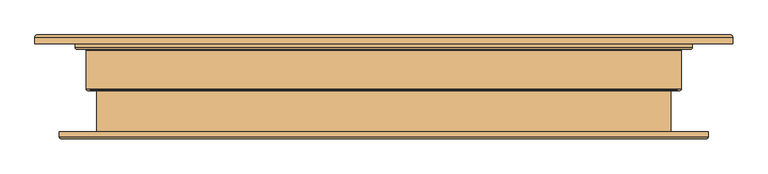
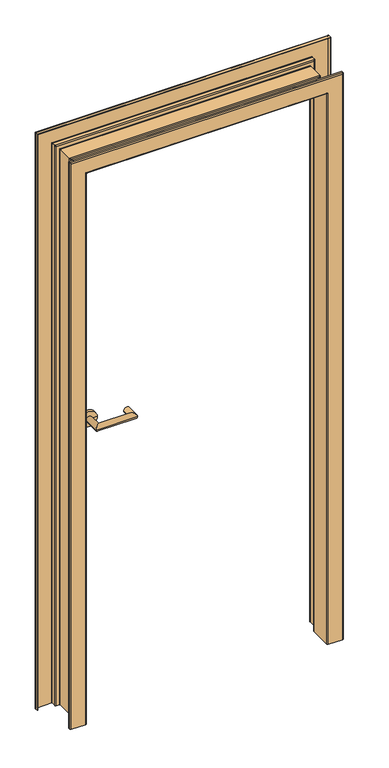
"""IFC4 building model written with IfcOpenShell, lengths in millimetres: door geometry, Peneder_HIGHLINEflat_1-flügelig_V2019 : Zargentyp - 01 - Eck 60 DN."""

from ifc_helpers import new_model, si_unit, frame, origin, place, context, project, spatial, polyline, circle_curve, ellipse_curve, source, transform, mapped, element, save
from ifc_brep_helpers import plane_surface, cylinder_surface, revolved_surface, advanced_brep


def door_bfabdab3(model_context):
    return source(origin(), model_context, "Body", "AdvancedBrep", [
        advanced_brep(
        [(-500.8, 138.0, 0.0), (-447.2, 138.0, 0.0), (-444.0, 134.8, 0.0), (-444.0, 120.2, 0.0), (-442.8, 119.0, 0.0), (-431.2, 119.0, 0.0), (-428.0, 115.8, 0.0), (-428.0, 60.5435371, 0.0), (-427.230303, 59.5704182, 0.0), (-421.4901646, 59.1837299, 0.0), (-418.7138764, 60.5145653, 0.0), (-418.4, 61.2839869, 0.0), (-418.4, 67.990098, 0.0), (-417.5333333, 70.1996732, 0.0), (-413.8666667, 70.1996732, 0.0), (-413.0, 67.990098, 0.0), (-413.0, -8.8, 0.0), (-416.2, -12.0, 0.0), (-465.8, -12.0, 0.0), (-469.0, -8.8, 0.0), (-469.0, -2.0, 0.0), (-467.0, -2.0, 0.0), (-467.0, -8.8, 0.0), (-465.8, -10.0, 0.0), (-416.2, -10.0, 0.0), (-415.0, -8.8, 0.0), (-415.0, 67.990098, 0.0), (-415.3333333, 68.8399346, 0.0), (-416.0666667, 68.8399346, 0.0), (-416.4, 67.990098, 0.0), (-416.4, 61.2435371, 0.0), (-417.2315687, 59.170398, 0.0), (-421.2947548, 57.1932991, 0.0), (-427.6909091, 57.6241802, 0.0), (-430.0, 60.5435371, 0.0), (-430.0, 115.8, 0.0), (-431.2, 117.0, 0.0), (-442.8, 117.0, 0.0), (-446.0, 120.2, 0.0), (-446.0, 134.8, 0.0), (-447.2, 136.0, 0.0), (-500.8, 136.0, 0.0), (-502.0, 134.8, 0.0), (-502.0, 125.0, 0.0), (-504.0, 125.0, 0.0), (-504.0, 134.8, 0.0), (-500.8, 138.0, 2087.8), (500.8, 138.0, 2087.8), (500.8, 138.0, 0.0), (447.2, 138.0, 0.0), (447.2, 138.0, 2034.2), (-447.2, 138.0, 2034.2), (-444.0, 134.8, 2031.0), (-444.0, 120.2, 2031.0), (-442.8, 119.0, 2029.8), (442.8, 119.0, 2029.8), (442.8, 119.0, 0.0), (431.2, 119.0, 0.0), (431.2, 119.0, 2018.2), (-431.2, 119.0, 2018.2), (-428.0, 115.8, 2015.0), (-428.0, 60.5435371, 2015.0), (-427.230303, 59.5704182, 2014.230303), (-421.4901646, 59.1837299, 2008.4901646), (-418.7138764, 60.5145653, 2005.7138764), (-418.4, 61.2839869, 2005.4), (-418.4, 67.990098, 2005.4), (-417.5333333, 70.1996732, 2004.5333333), (-413.8666667, 70.1996732, 2000.8666667), (-413.0, 67.990098, 2000.0), (-413.0, -8.8, 2000.0), (-416.2, -12.0, 2003.2), (416.2, -12.0, 2003.2), (416.2, -12.0, 0.0), (465.8, -12.0, 0.0), (465.8, -12.0, 2052.8), (-465.8, -12.0, 2052.8), (-469.0, -8.8, 2056.0), (-469.0, -2.0, 2056.0), (469.0, -2.0, 2056.0), (469.0, -2.0, 0.0), (467.0, -2.0, 0.0), (467.0, -2.0, 2054.0), (-467.0, -2.0, 2054.0), (-467.0, -8.8, 2054.0), (-465.8, -10.0, 2052.8), (465.8, -10.0, 2052.8), (465.8, -10.0, 0.0), (416.2, -10.0, 0.0), (416.2, -10.0, 2003.2), (-416.2, -10.0, 2003.2), (-415.0, -8.8, 2002.0), (-415.0, 67.990098, 2002.0), (-415.3333333, 68.8399346, 2002.3333333), (-416.0666667, 68.8399346, 2003.0666667), (-416.4, 67.990098, 2003.4), (-416.4, 61.2435371, 2003.4), (-417.2315687, 59.170398, 2004.2315687), (-421.2947548, 57.1932991, 2008.2947548), (-427.6909091, 57.6241802, 2014.6909091), (-430.0, 60.5435371, 2017.0), (-430.0, 115.8, 2017.0), (-431.2, 117.0, 2018.2), (431.2, 117.0, 2018.2), (431.2, 117.0, 0.0), (442.8, 117.0, 0.0), (442.8, 117.0, 2029.8), (-442.8, 117.0, 2029.8), (-446.0, 120.2, 2033.0), (-446.0, 134.8, 2033.0), (-447.2, 136.0, 2034.2), (447.2, 136.0, 2034.2), (447.2, 136.0, 0.0), (500.8, 136.0, 0.0), (500.8, 136.0, 2087.8), (-500.8, 136.0, 2087.8), (-502.0, 134.8, 2089.0), (-502.0, 125.0, 2089.0), (502.0, 125.0, 2089.0), (502.0, 125.0, 0.0), (504.0, 125.0, 0.0), (504.0, 125.0, 2091.0), (-504.0, 125.0, 2091.0), (-504.0, 134.8, 2091.0), (502.0, 134.8, 2089.0), (502.0, 134.8, 0.0), (504.0, 134.8, 0.0), (446.0, 134.8, 0.0), (446.0, 120.2, 0.0), (430.0, 115.8, 0.0), (430.0, 60.5435371, 0.0), (427.6909091, 57.6241802, 0.0), (421.2947548, 57.1932991, 0.0), (417.2315687, 59.170398, 0.0), (416.4, 61.2435371, 0.0), (416.4, 67.990098, 0.0), (416.0666667, 68.8399346, 0.0), (415.3333333, 68.8399346, 0.0), (415.0, 67.990098, 0.0), (415.0, -8.8, 0.0), (467.0, -8.8, 0.0), (469.0, -8.8, 0.0), (413.0, -8.8, 0.0), (413.0, 67.990098, 0.0), (413.8666667, 70.1996732, 0.0), (417.5333333, 70.1996732, 0.0), (418.4, 67.990098, 0.0), (418.4, 61.2839869, 0.0), (418.7138764, 60.5145653, 0.0), (421.4901646, 59.1837299, 0.0), (427.230303, 59.5704182, 0.0), (428.0, 60.5435371, 0.0), (428.0, 115.8, 0.0), (444.0, 120.2, 0.0), (444.0, 134.8, 0.0), (504.0, 134.8, 2091.0), (446.0, 134.8, 2033.0), (430.0, 115.8, 2017.0), (446.0, 120.2, 2033.0), (467.0, -8.8, 2054.0), (415.0, -8.8, 2002.0), (469.0, -8.8, 2056.0), (413.0, -8.8, 2000.0), (444.0, 120.2, 2031.0), (428.0, 115.8, 2015.0), (444.0, 134.8, 2031.0), (430.0, 60.5435371, 2017.0), (427.6909091, 57.6241802, 2014.6909091), (421.2947548, 57.1932991, 2008.2947548), (417.2315687, 59.170398, 2004.2315687), (416.4, 61.2435371, 2003.4), (416.4, 67.990098, 2003.4), (416.0666667, 68.8399346, 2003.0666667), (415.3333333, 68.8399346, 2002.3333333), (415.0, 67.990098, 2002.0), (413.0, 67.990098, 2000.0), (413.8666667, 70.1996732, 2000.8666667), (417.5333333, 70.1996732, 2004.5333333), (418.4, 67.990098, 2005.4), (418.4, 61.2839869, 2005.4), (418.7138764, 60.5145653, 2005.7138764), (421.4901646, 59.1837299, 2008.4901646), (427.230303, 59.5704182, 2014.230303), (428.0, 60.5435371, 2015.0)],
        [
            (0, 1),
            (1, 2, circle_curve(frame((-447.2, 134.8, 0.0), z_axis=(0.0, 0.0, -1.0), x_axis=(1.0, 0.0, 0.0)), 3.2)),
            (2, 3),
            (3, 4, circle_curve(frame((-442.8, 120.2, 0.0), z_axis=(0.0, 0.0, 1.0), x_axis=(1.0, 0.0, 0.0)), 1.2)),
            (4, 5),
            (5, 6, circle_curve(frame((-431.2, 115.8, 0.0), z_axis=(0.0, 0.0, -1.0), x_axis=(1.0, 0.0, 0.0)), 3.2)),
            (6, 7),
            (7, 8, circle_curve(frame((-427.0, 60.5435371, 0.0), z_axis=(0.0, 0.0, 1.0), x_axis=(1.0, 0.0, 0.0)), 1.0)),
            (8, 9, circle_curve(frame((-423.2, 76.6, 0.0), z_axis=(0.0, 0.0, 1.0), x_axis=(-1.0, 0.0, 0.0)), 17.5)),
            (9, 10, circle_curve(frame((-421.9298365, 63.6621994, 0.0), z_axis=(0.0, 0.0, 1.0), x_axis=(-1.0, 0.0, 0.0)), 4.5)),
            (10, 11, circle_curve(frame((-419.5, 61.2839869, 0.0), z_axis=(0.0, 0.0, 1.0), x_axis=(-1.0, 0.0, 0.0)), 1.1)),
            (11, 12),
            (12, 13, circle_curve(frame((-415.15, 67.990098, 0.0), z_axis=(0.0, 0.0, -1.0), x_axis=(1.0, 0.0, 0.0)), 3.25)),
            (13, 14, circle_curve(frame((-415.7, 68.5, 0.0), z_axis=(0.0, 0.0, -1.0), x_axis=(1.0, 0.0, 0.0)), 2.5)),
            (14, 15, circle_curve(frame((-416.25, 67.990098, 0.0), z_axis=(0.0, 0.0, -1.0), x_axis=(1.0, 0.0, 0.0)), 3.25)),
            (15, 16),
            (16, 17, circle_curve(frame((-416.2, -8.8, 0.0), z_axis=(0.0, 0.0, -1.0), x_axis=(1.0, 0.0, 0.0)), 3.2)),
            (17, 18),
            (18, 19, circle_curve(frame((-465.8, -8.8, 0.0), z_axis=(0.0, 0.0, -1.0), x_axis=(1.0, 0.0, 0.0)), 3.2)),
            (19, 20),
            (20, 21),
            (21, 22),
            (22, 23, circle_curve(frame((-465.8, -8.8, 0.0), z_axis=(0.0, 0.0, 1.0), x_axis=(1.0, 0.0, 0.0)), 1.2)),
            (23, 24),
            (24, 25, circle_curve(frame((-416.2, -8.8, 0.0), z_axis=(0.0, 0.0, 1.0), x_axis=(1.0, 0.0, 0.0)), 1.2)),
            (25, 26),
            (26, 27, circle_curve(frame((-416.25, 67.990098, 0.0), z_axis=(0.0, 0.0, 1.0), x_axis=(1.0, 0.0, 0.0)), 1.25)),
            (27, 28, circle_curve(frame((-415.7, 68.5, 0.0), z_axis=(0.0, 0.0, 1.0), x_axis=(1.0, 0.0, 0.0)), 0.5)),
            (28, 29, circle_curve(frame((-415.15, 67.990098, 0.0), z_axis=(0.0, 0.0, 1.0), x_axis=(1.0, 0.0, 0.0)), 1.25)),
            (29, 30),
            (30, 31, circle_curve(frame((-419.4, 61.2435371, 0.0), z_axis=(0.0, 0.0, -1.0), x_axis=(1.0, 0.0, 0.0)), 3.0)),
            (31, 32, circle_curve(frame((-421.9298365, 63.6621994, 0.0), z_axis=(0.0, 0.0, -1.0), x_axis=(1.0, 0.0, 0.0)), 6.5)),
            (32, 33, circle_curve(frame((-423.2, 76.6, 0.0), z_axis=(0.0, 0.0, -1.0), x_axis=(1.0, 0.0, 0.0)), 19.5)),
            (33, 34, circle_curve(frame((-427.0, 60.5435371, 0.0), z_axis=(0.0, 0.0, -1.0), x_axis=(1.0, 0.0, 0.0)), 3.0)),
            (34, 35),
            (35, 36, circle_curve(frame((-431.2, 115.8, 0.0), z_axis=(0.0, 0.0, 1.0), x_axis=(1.0, 0.0, 0.0)), 1.2)),
            (36, 37),
            (37, 38, circle_curve(frame((-442.8, 120.2, 0.0), z_axis=(0.0, 0.0, -1.0), x_axis=(1.0, 0.0, 0.0)), 3.2)),
            (38, 39),
            (39, 40, circle_curve(frame((-447.2, 134.8, 0.0), z_axis=(0.0, 0.0, 1.0), x_axis=(1.0, 0.0, 0.0)), 1.2)),
            (40, 41),
            (41, 42, circle_curve(frame((-500.8, 134.8, 0.0), z_axis=(0.0, 0.0, 1.0), x_axis=(1.0, 0.0, 0.0)), 1.2)),
            (42, 43),
            (43, 44),
            (44, 45),
            (45, 0, circle_curve(frame((-500.8, 134.8, 0.0), z_axis=(0.0, 0.0, -1.0), x_axis=(1.0, 0.0, 0.0)), 3.2)),
            (0, 46),
            (46, 47),
            (47, 48),
            (48, 49),
            (49, 50),
            (50, 51),
            (51, 1),
            (51, 52, ellipse_curve(frame((-447.2, 134.8, 2034.2), z_axis=(-0.7071067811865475, 0.0, -0.7071067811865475), x_axis=(0.7071067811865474, 0.0, -0.7071067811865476)), 4.5254834, 3.2)),
            (52, 2),
            (52, 53),
            (53, 3),
            (53, 54, ellipse_curve(frame((-442.8, 120.2, 2029.8), z_axis=(0.7071067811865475, 0.0, 0.7071067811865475), x_axis=(-0.7071067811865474, 0.0, 0.7071067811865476)), 1.6970563, 1.2)),
            (54, 4),
            (54, 55),
            (55, 56),
            (56, 57),
            (57, 58),
            (58, 59),
            (59, 5),
            (59, 60, ellipse_curve(frame((-431.2, 115.8, 2018.2), z_axis=(-0.7071067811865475, 0.0, -0.7071067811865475), x_axis=(0.7071067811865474, 0.0, -0.7071067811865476)), 4.5254834, 3.2)),
            (60, 6),
            (60, 61),
            (61, 7),
            (61, 62, ellipse_curve(frame((-427.0, 60.5435371, 2014.0), z_axis=(0.7071067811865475, 0.0, 0.7071067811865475), x_axis=(-0.7071067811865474, 0.0, 0.7071067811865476)), 1.4142136, 1.0)),
            (62, 8),
            (62, 63, ellipse_curve(frame((-423.2, 76.6, 2010.2), z_axis=(0.7071067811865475, 0.0, 0.7071067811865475), x_axis=(-0.7071067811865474, 0.0, 0.7071067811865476)), 24.7487373, 17.5)),
            (63, 9),
            (63, 64, ellipse_curve(frame((-421.9298365, 63.6621994, 2008.9298365), z_axis=(0.7071067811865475, 0.0, 0.7071067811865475), x_axis=(-0.7071067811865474, 0.0, 0.7071067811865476)), 6.363961, 4.5)),
            (64, 10),
            (64, 65, ellipse_curve(frame((-419.5, 61.2839869, 2006.5), z_axis=(0.7071067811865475, 0.0, 0.7071067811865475), x_axis=(-0.7071067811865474, 0.0, 0.7071067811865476)), 1.5556349, 1.1)),
            (65, 11),
            (65, 66),
            (66, 12),
            (66, 67, ellipse_curve(frame((-415.15, 67.990098, 2002.15), z_axis=(-0.7071067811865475, 0.0, -0.7071067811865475), x_axis=(0.7071067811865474, 0.0, -0.7071067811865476)), 4.5961941, 3.25)),
            (67, 13),
            (67, 68, ellipse_curve(frame((-415.7, 68.5, 2002.7), z_axis=(-0.7071067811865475, 0.0, -0.7071067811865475), x_axis=(0.7071067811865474, 0.0, -0.7071067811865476)), 3.5355339, 2.5)),
            (68, 14),
            (68, 69, ellipse_curve(frame((-416.25, 67.990098, 2003.25), z_axis=(-0.7071067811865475, 0.0, -0.7071067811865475), x_axis=(0.7071067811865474, 0.0, -0.7071067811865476)), 4.5961941, 3.25)),
            (69, 15),
            (69, 70),
            (70, 16),
            (70, 71, ellipse_curve(frame((-416.2, -8.8, 2003.2), z_axis=(-0.7071067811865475, 0.0, -0.7071067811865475), x_axis=(0.7071067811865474, 0.0, -0.7071067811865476)), 4.5254834, 3.2)),
            (71, 17),
            (71, 72),
            (72, 73),
            (73, 74),
            (74, 75),
            (75, 76),
            (76, 18),
            (76, 77, ellipse_curve(frame((-465.8, -8.8, 2052.8), z_axis=(-0.7071067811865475, 0.0, -0.7071067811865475), x_axis=(0.7071067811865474, 0.0, -0.7071067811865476)), 4.5254834, 3.2)),
            (77, 19),
            (77, 78),
            (78, 20),
            (78, 79),
            (79, 80),
            (80, 81),
            (81, 82),
            (82, 83),
            (83, 21),
            (83, 84),
            (84, 22),
            (84, 85, ellipse_curve(frame((-465.8, -8.8, 2052.8), z_axis=(0.7071067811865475, 0.0, 0.7071067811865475), x_axis=(-0.7071067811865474, 0.0, 0.7071067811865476)), 1.6970563, 1.2)),
            (85, 23),
            (85, 86),
            (86, 87),
            (87, 88),
            (88, 89),
            (89, 90),
            (90, 24),
            (90, 91, ellipse_curve(frame((-416.2, -8.8, 2003.2), z_axis=(0.7071067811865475, 0.0, 0.7071067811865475), x_axis=(-0.7071067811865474, 0.0, 0.7071067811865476)), 1.6970563, 1.2)),
            (91, 25),
            (91, 92),
            (92, 26),
            (92, 93, ellipse_curve(frame((-416.25, 67.990098, 2003.25), z_axis=(0.7071067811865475, 0.0, 0.7071067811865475), x_axis=(-0.7071067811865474, 0.0, 0.7071067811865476)), 1.767767, 1.25)),
            (93, 27),
            (93, 94, ellipse_curve(frame((-415.7, 68.5, 2002.7), z_axis=(0.7071067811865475, 0.0, 0.7071067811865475), x_axis=(-0.7071067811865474, 0.0, 0.7071067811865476)), 0.7071068, 0.5)),
            (94, 28),
            (94, 95, ellipse_curve(frame((-415.15, 67.990098, 2002.15), z_axis=(0.7071067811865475, 0.0, 0.7071067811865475), x_axis=(-0.7071067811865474, 0.0, 0.7071067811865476)), 1.767767, 1.25)),
            (95, 29),
            (95, 96),
            (96, 30),
            (96, 97, ellipse_curve(frame((-419.4, 61.2435371, 2006.4), z_axis=(-0.7071067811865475, 0.0, -0.7071067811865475), x_axis=(0.7071067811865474, 0.0, -0.7071067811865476)), 4.2426407, 3.0)),
            (97, 31),
            (97, 98, ellipse_curve(frame((-421.9298365, 63.6621994, 2008.9298365), z_axis=(-0.7071067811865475, 0.0, -0.7071067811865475), x_axis=(0.7071067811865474, 0.0, -0.7071067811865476)), 9.1923882, 6.5)),
            (98, 32),
            (98, 99, ellipse_curve(frame((-423.2, 76.6, 2010.2), z_axis=(-0.7071067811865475, 0.0, -0.7071067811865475), x_axis=(0.7071067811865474, 0.0, -0.7071067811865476)), 27.5771645, 19.5)),
            (99, 33),
            (99, 100, ellipse_curve(frame((-427.0, 60.5435371, 2014.0), z_axis=(-0.7071067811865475, 0.0, -0.7071067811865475), x_axis=(0.7071067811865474, 0.0, -0.7071067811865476)), 4.2426407, 3.0)),
            (100, 34),
            (100, 101),
            (101, 35),
            (101, 102, ellipse_curve(frame((-431.2, 115.8, 2018.2), z_axis=(0.7071067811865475, 0.0, 0.7071067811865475), x_axis=(-0.7071067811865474, 0.0, 0.7071067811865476)), 1.6970563, 1.2)),
            (102, 36),
            (102, 103),
            (103, 104),
            (104, 105),
            (105, 106),
            (106, 107),
            (107, 37),
            (107, 108, ellipse_curve(frame((-442.8, 120.2, 2029.8), z_axis=(-0.7071067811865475, 0.0, -0.7071067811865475), x_axis=(0.7071067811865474, 0.0, -0.7071067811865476)), 4.5254834, 3.2)),
            (108, 38),
            (108, 109),
            (109, 39),
            (109, 110, ellipse_curve(frame((-447.2, 134.8, 2034.2), z_axis=(0.7071067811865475, 0.0, 0.7071067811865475), x_axis=(-0.7071067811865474, 0.0, 0.7071067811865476)), 1.6970563, 1.2)),
            (110, 40),
            (110, 111),
            (111, 112),
            (112, 113),
            (113, 114),
            (114, 115),
            (115, 41),
            (115, 116, ellipse_curve(frame((-500.8, 134.8, 2087.8), z_axis=(0.7071067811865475, 0.0, 0.7071067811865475), x_axis=(-0.7071067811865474, 0.0, 0.7071067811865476)), 1.6970563, 1.2)),
            (116, 42),
            (116, 117),
            (117, 43),
            (117, 118),
            (118, 119),
            (119, 120),
            (120, 121),
            (121, 122),
            (122, 44),
            (122, 123),
            (123, 45),
            (123, 46, ellipse_curve(frame((-500.8, 134.8, 2087.8), z_axis=(-0.7071067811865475, 0.0, -0.7071067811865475), x_axis=(0.7071067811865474, 0.0, -0.7071067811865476)), 4.5254834, 3.2)),
            (118, 124),
            (124, 125),
            (125, 119),
            (48, 126, circle_curve(frame((500.8, 134.8, 0.0), z_axis=(0.0, 0.0, -1.0), x_axis=(-1.0, 0.0, 0.0)), 3.2)),
            (126, 120),
            (125, 113, circle_curve(frame((500.8, 134.8, 0.0), z_axis=(0.0, 0.0, 1.0), x_axis=(-1.0, 0.0, 0.0)), 1.2)),
            (112, 127, circle_curve(frame((447.2, 134.8, 0.0), z_axis=(0.0, 0.0, 1.0), x_axis=(-1.0, 0.0, 0.0)), 1.2)),
            (127, 128),
            (128, 105, circle_curve(frame((442.8, 120.2, 0.0), z_axis=(0.0, 0.0, -1.0), x_axis=(-1.0, 0.0, 0.0)), 3.2)),
            (104, 129, circle_curve(frame((431.2, 115.8, 0.0), z_axis=(0.0, 0.0, 1.0), x_axis=(-1.0, 0.0, 0.0)), 1.2)),
            (129, 130),
            (130, 131, circle_curve(frame((427.0, 60.5435371, 0.0), z_axis=(0.0, 0.0, -1.0), x_axis=(-1.0, 0.0, 0.0)), 3.0)),
            (131, 132, circle_curve(frame((423.2, 76.6, 0.0), z_axis=(0.0, 0.0, -1.0), x_axis=(-1.0, 0.0, 0.0)), 19.5)),
            (132, 133, circle_curve(frame((421.9298365, 63.6621994, 0.0), z_axis=(0.0, 0.0, -1.0), x_axis=(-1.0, 0.0, 0.0)), 6.5)),
            (133, 134, circle_curve(frame((419.4, 61.2435371, 0.0), z_axis=(0.0, 0.0, -1.0), x_axis=(-1.0, 0.0, 0.0)), 3.0)),
            (134, 135),
            (135, 136, circle_curve(frame((415.15, 67.990098, 0.0), z_axis=(0.0, 0.0, 1.0), x_axis=(-1.0, 0.0, 0.0)), 1.25)),
            (136, 137, circle_curve(frame((415.7, 68.5, 0.0), z_axis=(0.0, 0.0, 1.0), x_axis=(-1.0, 0.0, 0.0)), 0.5)),
            (137, 138, circle_curve(frame((416.25, 67.990098, 0.0), z_axis=(0.0, 0.0, 1.0), x_axis=(-1.0, 0.0, 0.0)), 1.25)),
            (138, 139),
            (139, 88, circle_curve(frame((416.2, -8.8, 0.0), z_axis=(0.0, 0.0, 1.0), x_axis=(-1.0, 0.0, 0.0)), 1.2)),
            (87, 140, circle_curve(frame((465.8, -8.8, 0.0), z_axis=(0.0, 0.0, 1.0), x_axis=(-1.0, 0.0, 0.0)), 1.2)),
            (140, 81),
            (80, 141),
            (141, 74, circle_curve(frame((465.8, -8.8, 0.0), z_axis=(0.0, 0.0, -1.0), x_axis=(-1.0, 0.0, 0.0)), 3.2)),
            (73, 142, circle_curve(frame((416.2, -8.8, 0.0), z_axis=(0.0, 0.0, -1.0), x_axis=(-1.0, 0.0, 0.0)), 3.2)),
            (142, 143),
            (143, 144, circle_curve(frame((416.25, 67.990098, 0.0), z_axis=(0.0, 0.0, -1.0), x_axis=(-1.0, 0.0, 0.0)), 3.25)),
            (144, 145, circle_curve(frame((415.7, 68.5, 0.0), z_axis=(0.0, 0.0, -1.0), x_axis=(-1.0, 0.0, 0.0)), 2.5)),
            (145, 146, circle_curve(frame((415.15, 67.990098, 0.0), z_axis=(0.0, 0.0, -1.0), x_axis=(-1.0, 0.0, 0.0)), 3.25)),
            (146, 147),
            (147, 148, circle_curve(frame((419.5, 61.2839869, 0.0), z_axis=(0.0, 0.0, 1.0), x_axis=(1.0, 0.0, 0.0)), 1.1)),
            (148, 149, circle_curve(frame((421.9298365, 63.6621994, 0.0), z_axis=(0.0, 0.0, 1.0), x_axis=(1.0, 0.0, 0.0)), 4.5)),
            (149, 150, circle_curve(frame((423.2, 76.6, 0.0), z_axis=(0.0, 0.0, 1.0), x_axis=(1.0, 0.0, 0.0)), 17.5)),
            (150, 151, circle_curve(frame((427.0, 60.5435371, 0.0), z_axis=(0.0, 0.0, 1.0), x_axis=(-1.0, 0.0, 0.0)), 1.0)),
            (151, 152),
            (152, 57, circle_curve(frame((431.2, 115.8, 0.0), z_axis=(0.0, 0.0, -1.0), x_axis=(-1.0, 0.0, 0.0)), 3.2)),
            (56, 153, circle_curve(frame((442.8, 120.2, 0.0), z_axis=(0.0, 0.0, 1.0), x_axis=(-1.0, 0.0, 0.0)), 1.2)),
            (153, 154),
            (154, 49, circle_curve(frame((447.2, 134.8, 0.0), z_axis=(0.0, 0.0, -1.0), x_axis=(-1.0, 0.0, 0.0)), 3.2)),
            (155, 121),
            (126, 155),
            (111, 156, ellipse_curve(frame((447.2, 134.8, 2034.2), z_axis=(-0.7071067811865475, 0.0, 0.7071067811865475), x_axis=(-0.7071067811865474, 0.0, -0.7071067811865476)), 1.6970563, 1.2)),
            (156, 127),
            (124, 114, ellipse_curve(frame((500.8, 134.8, 2087.8), z_axis=(-0.7071067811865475, 0.0, 0.7071067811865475), x_axis=(-0.7071067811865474, 0.0, -0.7071067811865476)), 1.6970563, 1.2)),
            (103, 157, ellipse_curve(frame((431.2, 115.8, 2018.2), z_axis=(-0.7071067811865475, 0.0, 0.7071067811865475), x_axis=(-0.7071067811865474, 0.0, -0.7071067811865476)), 1.6970563, 1.2)),
            (157, 129),
            (158, 106, ellipse_curve(frame((442.8, 120.2, 2029.8), z_axis=(0.7071067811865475, 0.0, -0.7071067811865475), x_axis=(0.7071067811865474, 0.0, 0.7071067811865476)), 4.5254834, 3.2)),
            (128, 158),
            (86, 159, ellipse_curve(frame((465.8, -8.8, 2052.8), z_axis=(-0.7071067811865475, 0.0, 0.7071067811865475), x_axis=(-0.7071067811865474, 0.0, -0.7071067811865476)), 1.6970563, 1.2)),
            (159, 140),
            (160, 89, ellipse_curve(frame((416.2, -8.8, 2003.2), z_axis=(-0.7071067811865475, 0.0, 0.7071067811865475), x_axis=(-0.7071067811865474, 0.0, -0.7071067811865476)), 1.6970563, 1.2)),
            (139, 160),
            (79, 161),
            (161, 141),
            (159, 82),
            (72, 162, ellipse_curve(frame((416.2, -8.8, 2003.2), z_axis=(0.7071067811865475, 0.0, -0.7071067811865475), x_axis=(0.7071067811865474, 0.0, 0.7071067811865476)), 4.5254834, 3.2)),
            (162, 142),
            (161, 75, ellipse_curve(frame((465.8, -8.8, 2052.8), z_axis=(0.7071067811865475, 0.0, -0.7071067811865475), x_axis=(0.7071067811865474, 0.0, 0.7071067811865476)), 4.5254834, 3.2)),
            (55, 163, ellipse_curve(frame((442.8, 120.2, 2029.8), z_axis=(-0.7071067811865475, 0.0, 0.7071067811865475), x_axis=(-0.7071067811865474, 0.0, -0.7071067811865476)), 1.6970563, 1.2)),
            (163, 153),
            (164, 58, ellipse_curve(frame((431.2, 115.8, 2018.2), z_axis=(0.7071067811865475, 0.0, -0.7071067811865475), x_axis=(0.7071067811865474, 0.0, 0.7071067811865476)), 4.5254834, 3.2)),
            (152, 164),
            (47, 155, ellipse_curve(frame((500.8, 134.8, 2087.8), z_axis=(0.7071067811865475, 0.0, -0.7071067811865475), x_axis=(0.7071067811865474, 0.0, 0.7071067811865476)), 4.5254834, 3.2)),
            (165, 50, ellipse_curve(frame((447.2, 134.8, 2034.2), z_axis=(0.7071067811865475, 0.0, -0.7071067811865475), x_axis=(0.7071067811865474, 0.0, 0.7071067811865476)), 4.5254834, 3.2)),
            (154, 165),
            (156, 158),
            (157, 166),
            (166, 130),
            (166, 167, ellipse_curve(frame((427.0, 60.5435371, 2014.0), z_axis=(0.7071067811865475, 0.0, -0.7071067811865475), x_axis=(0.7071067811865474, 0.0, 0.7071067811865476)), 4.2426407, 3.0)),
            (167, 131),
            (167, 168, ellipse_curve(frame((423.2, 76.6, 2010.2), z_axis=(0.7071067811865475, 0.0, -0.7071067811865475), x_axis=(0.7071067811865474, 0.0, 0.7071067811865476)), 27.5771645, 19.5)),
            (168, 132),
            (168, 169, ellipse_curve(frame((421.9298365, 63.6621994, 2008.9298365), z_axis=(0.7071067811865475, 0.0, -0.7071067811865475), x_axis=(0.7071067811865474, 0.0, 0.7071067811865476)), 9.1923882, 6.5)),
            (169, 133),
            (169, 170, ellipse_curve(frame((419.4, 61.2435371, 2006.4), z_axis=(0.7071067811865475, 0.0, -0.7071067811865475), x_axis=(0.7071067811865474, 0.0, 0.7071067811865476)), 4.2426407, 3.0)),
            (170, 134),
            (170, 171),
            (171, 135),
            (171, 172, ellipse_curve(frame((415.15, 67.990098, 2002.15), z_axis=(-0.7071067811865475, 0.0, 0.7071067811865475), x_axis=(-0.7071067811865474, 0.0, -0.7071067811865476)), 1.767767, 1.25)),
            (172, 136),
            (172, 173, ellipse_curve(frame((415.7, 68.5, 2002.7), z_axis=(-0.7071067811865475, 0.0, 0.7071067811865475), x_axis=(-0.7071067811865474, 0.0, -0.7071067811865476)), 0.7071068, 0.5)),
            (173, 137),
            (173, 174, ellipse_curve(frame((416.25, 67.990098, 2003.25), z_axis=(-0.7071067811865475, 0.0, 0.7071067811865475), x_axis=(-0.7071067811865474, 0.0, -0.7071067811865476)), 1.767767, 1.25)),
            (174, 138),
            (174, 160),
            (162, 175),
            (175, 143),
            (175, 176, ellipse_curve(frame((416.25, 67.990098, 2003.25), z_axis=(0.7071067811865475, 0.0, -0.7071067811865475), x_axis=(0.7071067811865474, 0.0, 0.7071067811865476)), 4.5961941, 3.25)),
            (176, 144),
            (176, 177, ellipse_curve(frame((415.7, 68.5, 2002.7), z_axis=(0.7071067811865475, 0.0, -0.7071067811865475), x_axis=(0.7071067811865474, 0.0, 0.7071067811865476)), 3.5355339, 2.5)),
            (177, 145),
            (177, 178, ellipse_curve(frame((415.15, 67.990098, 2002.15), z_axis=(0.7071067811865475, 0.0, -0.7071067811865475), x_axis=(0.7071067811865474, 0.0, 0.7071067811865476)), 4.5961941, 3.25)),
            (178, 146),
            (178, 179),
            (179, 147),
            (179, 180, ellipse_curve(frame((419.5, 61.2839869, 2006.5), z_axis=(-0.7071067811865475, 0.0, 0.7071067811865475), x_axis=(-0.7071067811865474, 0.0, -0.7071067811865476)), 1.5556349, 1.1)),
            (180, 148),
            (180, 181, ellipse_curve(frame((421.9298365, 63.6621994, 2008.9298365), z_axis=(-0.7071067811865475, 0.0, 0.7071067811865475), x_axis=(-0.7071067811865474, 0.0, -0.7071067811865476)), 6.363961, 4.5)),
            (181, 149),
            (181, 182, ellipse_curve(frame((423.2, 76.6, 2010.2), z_axis=(-0.7071067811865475, 0.0, 0.7071067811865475), x_axis=(-0.7071067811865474, 0.0, -0.7071067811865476)), 24.7487373, 17.5)),
            (182, 150),
            (182, 183, ellipse_curve(frame((427.0, 60.5435371, 2014.0), z_axis=(-0.7071067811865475, 0.0, 0.7071067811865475), x_axis=(-0.7071067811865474, 0.0, -0.7071067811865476)), 1.4142136, 1.0)),
            (183, 151),
            (183, 164),
            (163, 165),
            (123, 155),
            (116, 124),
            (109, 156),
            (108, 158),
            (101, 157),
            (100, 166),
            (99, 167),
            (98, 168),
            (97, 169),
            (96, 170),
            (95, 171),
            (94, 172),
            (93, 173),
            (92, 174),
            (91, 160),
            (84, 159),
            (77, 161),
            (70, 162),
            (69, 175),
            (68, 176),
            (67, 177),
            (66, 178),
            (65, 179),
            (64, 180),
            (63, 181),
            (62, 182),
            (61, 183),
            (60, 164),
            (53, 163),
            (52, 165),
        ],
        [
            plane_surface(frame((-474.0, 125.0, 0.0), z_axis=(0.0, 0.0, -1.0), x_axis=(0.0, 1.0, 0.0))),
            plane_surface(frame((-500.8, 138.0, 0.0), z_axis=(0.0, 1.0, 0.0), x_axis=(0.0, 0.0, 1.0))),
            cylinder_surface(frame((-447.2, 134.8, 0.0), z_axis=(0.0, 0.0, -1.0), x_axis=(1.0, 0.0, 0.0)), 3.2),
            plane_surface(frame((-444.0, 134.8, 0.0), z_axis=(1.0, 0.0, 0.0), x_axis=(0.0, 0.0, 1.0))),
            revolved_surface(polyline([(-441.6, 120.2, 2031.0000000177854), (-441.6, 120.2, 0.0)]), (-442.8, 120.2, 0.0), (0.0, 0.0, 1.0)),
            plane_surface(frame((-442.8, 119.0, 0.0), z_axis=(0.0, 1.0, 0.0), x_axis=(0.0, 0.0, 1.0))),
            cylinder_surface(frame((-431.2, 115.8, 0.0), z_axis=(0.0, 0.0, -1.0), x_axis=(1.0, 0.0, 0.0)), 3.2),
            plane_surface(frame((-428.0, 115.8, 0.0), z_axis=(1.0, 0.0, 0.0), x_axis=(0.0, 0.0, 1.0))),
            revolved_surface(polyline([(-426.0, 60.5435371, 2015.0000000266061), (-426.0, 60.5435371, 0.0)]), (-427.0, 60.5435371, 0.0), (0.0, 0.0, 1.0)),
            revolved_surface(polyline([(-440.7, 76.6, 2027.6999999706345), (-440.7, 76.6, 0.0)]), (-423.2, 76.6, 0.0), (0.0, 0.0, 1.0)),
            revolved_surface(polyline([(-426.4298365, 63.6621994, 2013.4298364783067), (-426.4298365, 63.6621994, 0.0)]), (-421.9298365, 63.6621994, 0.0), (0.0, 0.0, 1.0)),
            revolved_surface(polyline([(-420.6, 61.2839869, 2007.5999999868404), (-420.6, 61.2839869, 0.0)]), (-419.5, 61.2839869, 0.0), (0.0, 0.0, 1.0)),
            plane_surface(frame((-418.4, 61.2839869, 0.0), z_axis=(-1.0, 0.0, 0.0), x_axis=(0.0, 0.0, 1.0))),
            cylinder_surface(frame((-415.15, 67.990098, 0.0), z_axis=(0.0, 0.0, -1.0), x_axis=(1.0, 0.0, 0.0)), 3.25),
            cylinder_surface(frame((-415.7, 68.5, 0.0), z_axis=(0.0, 0.0, -1.0), x_axis=(1.0, 0.0, 0.0)), 2.5),
            cylinder_surface(frame((-416.25, 67.990098, 0.0), z_axis=(0.0, 0.0, -1.0), x_axis=(1.0, 0.0, 0.0)), 3.25),
            plane_surface(frame((-413.0, 67.990098, 0.0), z_axis=(1.0, 0.0, 0.0), x_axis=(0.0, 0.0, 1.0))),
            cylinder_surface(frame((-416.2, -8.8, 0.0), z_axis=(0.0, 0.0, -1.0), x_axis=(1.0, 0.0, 0.0)), 3.2),
            plane_surface(frame((-416.2, -12.0, 0.0), z_axis=(0.0, -1.0, 0.0), x_axis=(0.0, 0.0, 1.0))),
            cylinder_surface(frame((-465.8, -8.8, 0.0), z_axis=(0.0, 0.0, -1.0), x_axis=(1.0, 0.0, 0.0)), 3.2),
            plane_surface(frame((-469.0, -8.8, 0.0), z_axis=(-1.0, 0.0, 0.0), x_axis=(0.0, 0.0, 1.0))),
            plane_surface(frame((-469.0, -2.0, 0.0), z_axis=(0.0, 1.0, 0.0), x_axis=(0.0, 0.0, 1.0))),
            plane_surface(frame((-467.0, -2.0, 0.0), z_axis=(1.0, 0.0, 0.0), x_axis=(0.0, 0.0, 1.0))),
            revolved_surface(polyline([(-464.6, -8.8, 2054.0000000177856), (-464.6, -8.8, 0.0)]), (-465.8, -8.8, 0.0), (0.0, 0.0, 1.0)),
            plane_surface(frame((-465.8, -10.0, 0.0), z_axis=(0.0, 1.0, 0.0), x_axis=(0.0, 0.0, 1.0))),
            revolved_surface(polyline([(-415.0, -8.8, 2004.4000000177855), (-415.0, -8.8, 0.0)]), (-416.2, -8.8, 0.0), (0.0, 0.0, 1.0)),
            plane_surface(frame((-415.0, -8.8, 0.0), z_axis=(-1.0, 0.0, 0.0), x_axis=(0.0, 0.0, 1.0))),
            revolved_surface(polyline([(-415.0, 67.990098, 2004.5000000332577), (-415.0, 67.990098, 0.0)]), (-416.25, 67.990098, 0.0), (0.0, 0.0, 1.0)),
            revolved_surface(polyline([(-415.2, 68.5, 2003.2000000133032), (-415.2, 68.5, 0.0)]), (-415.7, 68.5, 0.0), (0.0, 0.0, 1.0)),
            revolved_surface(polyline([(-413.9, 67.990098, 2003.4000000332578), (-413.9, 67.990098, 0.0)]), (-415.15, 67.990098, 0.0), (0.0, 0.0, 1.0)),
            plane_surface(frame((-416.4, 67.990098, 0.0), z_axis=(1.0, 0.0, 0.0), x_axis=(0.0, 0.0, 1.0))),
            cylinder_surface(frame((-419.4, 61.2435371, 0.0), z_axis=(0.0, 0.0, -1.0), x_axis=(1.0, 0.0, 0.0)), 3.0),
            cylinder_surface(frame((-421.9298365, 63.6621994, 0.0), z_axis=(0.0, 0.0, -1.0), x_axis=(1.0, 0.0, 0.0)), 6.5),
            cylinder_surface(frame((-423.2, 76.6, 0.0), z_axis=(0.0, 0.0, -1.0), x_axis=(1.0, 0.0, 0.0)), 19.5),
            cylinder_surface(frame((-427.0, 60.5435371, 0.0), z_axis=(0.0, 0.0, -1.0), x_axis=(1.0, 0.0, 0.0)), 3.0),
            plane_surface(frame((-430.0, 60.5435371, 0.0), z_axis=(-1.0, 0.0, 0.0), x_axis=(0.0, 0.0, 1.0))),
            revolved_surface(polyline([(-430.0, 115.8, 2019.4000000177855), (-430.0, 115.8, 0.0)]), (-431.2, 115.8, 0.0), (0.0, 0.0, 1.0)),
            plane_surface(frame((-431.2, 117.0, 0.0), z_axis=(0.0, -1.0, 0.0), x_axis=(0.0, 0.0, 1.0))),
            cylinder_surface(frame((-442.8, 120.2, 0.0), z_axis=(0.0, 0.0, -1.0), x_axis=(1.0, 0.0, 0.0)), 3.2),
            plane_surface(frame((-446.0, 120.2, 0.0), z_axis=(-1.0, 0.0, 0.0), x_axis=(0.0, 0.0, 1.0))),
            revolved_surface(polyline([(-446.0, 134.8, 2035.4000000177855), (-446.0, 134.8, 0.0)]), (-447.2, 134.8, 0.0), (0.0, 0.0, 1.0)),
            plane_surface(frame((-447.2, 136.0, 0.0), z_axis=(0.0, -1.0, 0.0), x_axis=(0.0, 0.0, 1.0))),
            revolved_surface(polyline([(-499.6, 134.8, 2089.0000000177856), (-499.6, 134.8, 0.0)]), (-500.8, 134.8, 0.0), (0.0, 0.0, 1.0)),
            plane_surface(frame((-502.0, 134.8, 0.0), z_axis=(1.0, 0.0, 0.0), x_axis=(0.0, 0.0, 1.0))),
            plane_surface(frame((-502.0, 125.0, 0.0), z_axis=(0.0, -1.0, 0.0), x_axis=(0.0, 0.0, 1.0))),
            plane_surface(frame((-504.0, 125.0, 0.0), z_axis=(-1.0, 0.0, 0.0), x_axis=(0.0, 0.0, 1.0))),
            cylinder_surface(frame((-500.8, 134.8, 0.0), z_axis=(0.0, 0.0, -1.0), x_axis=(1.0, 0.0, 0.0)), 3.2),
            plane_surface(frame((502.0, 134.8, 2089.0), z_axis=(-1.0, 0.0, 0.0), x_axis=(0.0, 0.0, -1.0))),
            plane_surface(frame((474.0, 125.0, 0.0), z_axis=(0.0, 0.0, -1.0), x_axis=(0.0, 1.0, 0.0))),
            plane_surface(frame((504.0, 125.0, 2091.0), z_axis=(1.0, 0.0, 0.0), x_axis=(0.0, 0.0, -1.0))),
            revolved_surface(polyline([(446.0, 134.8, 0.0), (446.0, 134.8, 2035.4000000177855)]), (447.2, 134.8, 2061.0), (0.0, 0.0, -1.0)),
            revolved_surface(polyline([(499.6, 134.8, 0.0), (499.6, 134.8, 2089.0000000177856)]), (500.8, 134.8, 2061.0), (0.0, 0.0, -1.0)),
            revolved_surface(polyline([(430.0, 115.8, 0.0), (430.0, 115.8, 2019.4000000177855)]), (431.2, 115.8, 2061.0), (0.0, 0.0, -1.0)),
            cylinder_surface(frame((442.8, 120.2, 2061.0), z_axis=(0.0, 0.0, 1.0), x_axis=(-1.0, 0.0, 0.0)), 3.2),
            revolved_surface(polyline([(464.6, -8.8, 0.0), (464.6, -8.8, 2054.0000000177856)]), (465.8, -8.8, 2061.0), (0.0, 0.0, -1.0)),
            revolved_surface(polyline([(415.0, -8.8, 0.0), (415.0, -8.8, 2004.4000000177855)]), (416.2, -8.8, 2061.0), (0.0, 0.0, -1.0)),
            plane_surface(frame((469.0, -8.8, 2056.0), z_axis=(1.0, 0.0, 0.0), x_axis=(0.0, 0.0, -1.0))),
            plane_surface(frame((467.0, -2.0, 2054.0), z_axis=(-1.0, 0.0, 0.0), x_axis=(0.0, 0.0, -1.0))),
            cylinder_surface(frame((416.2, -8.8, 2061.0), z_axis=(0.0, 0.0, 1.0), x_axis=(-1.0, 0.0, 0.0)), 3.2),
            cylinder_surface(frame((465.8, -8.8, 2061.0), z_axis=(0.0, 0.0, 1.0), x_axis=(-1.0, 0.0, 0.0)), 3.2),
            revolved_surface(polyline([(441.6, 120.2, 0.0), (441.6, 120.2, 2031.0000000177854)]), (442.8, 120.2, 2061.0), (0.0, 0.0, -1.0)),
            cylinder_surface(frame((431.2, 115.8, 2061.0), z_axis=(0.0, 0.0, 1.0), x_axis=(-1.0, 0.0, 0.0)), 3.2),
            cylinder_surface(frame((500.8, 134.8, 2061.0), z_axis=(0.0, 0.0, 1.0), x_axis=(-1.0, 0.0, 0.0)), 3.2),
            cylinder_surface(frame((447.2, 134.8, 2061.0), z_axis=(0.0, 0.0, 1.0), x_axis=(-1.0, 0.0, 0.0)), 3.2),
            plane_surface(frame((446.0, 120.2, 2033.0), z_axis=(1.0, 0.0, 0.0), x_axis=(0.0, 0.0, -1.0))),
            plane_surface(frame((430.0, 60.5435371, 2017.0), z_axis=(1.0, 0.0, 0.0), x_axis=(0.0, 0.0, -1.0))),
            cylinder_surface(frame((427.0, 60.5435371, 2061.0), z_axis=(0.0, 0.0, 1.0), x_axis=(-1.0, 0.0, 0.0)), 3.0),
            cylinder_surface(frame((423.2, 76.6, 2061.0), z_axis=(0.0, 0.0, 1.0), x_axis=(-1.0, 0.0, 0.0)), 19.5),
            cylinder_surface(frame((421.9298365, 63.6621994, 2061.0), z_axis=(0.0, 0.0, 1.0), x_axis=(-1.0, 0.0, 0.0)), 6.5),
            cylinder_surface(frame((419.4, 61.2435371, 2061.0), z_axis=(0.0, 0.0, 1.0), x_axis=(-1.0, 0.0, 0.0)), 3.0),
            plane_surface(frame((416.4, 67.990098, 2003.4), z_axis=(-1.0, 0.0, 0.0), x_axis=(0.0, 0.0, -1.0))),
            revolved_surface(polyline([(413.9, 67.990098, 0.0), (413.9, 67.990098, 2003.4000000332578)]), (415.15, 67.990098, 2061.0), (0.0, 0.0, -1.0)),
            revolved_surface(polyline([(415.2, 68.5, 0.0), (415.2, 68.5, 2003.2000000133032)]), (415.7, 68.5, 2061.0), (0.0, 0.0, -1.0)),
            revolved_surface(polyline([(415.0, 67.990098, 0.0), (415.0, 67.990098, 2004.5000000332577)]), (416.25, 67.990098, 2061.0), (0.0, 0.0, -1.0)),
            plane_surface(frame((415.0, -8.8, 2002.0), z_axis=(1.0, 0.0, 0.0), x_axis=(0.0, 0.0, -1.0))),
            plane_surface(frame((413.0, 67.990098, 2000.0), z_axis=(-1.0, 0.0, 0.0), x_axis=(0.0, 0.0, -1.0))),
            cylinder_surface(frame((416.25, 67.990098, 2061.0), z_axis=(0.0, 0.0, 1.0), x_axis=(-1.0, 0.0, 0.0)), 3.25),
            cylinder_surface(frame((415.7, 68.5, 2061.0), z_axis=(0.0, 0.0, 1.0), x_axis=(-1.0, 0.0, 0.0)), 2.5),
            cylinder_surface(frame((415.15, 67.990098, 2061.0), z_axis=(0.0, 0.0, 1.0), x_axis=(-1.0, 0.0, 0.0)), 3.25),
            plane_surface(frame((418.4, 61.2839869, 2005.4), z_axis=(1.0, 0.0, 0.0), x_axis=(0.0, 0.0, -1.0))),
            revolved_surface(polyline([(420.6, 61.2839869, 0.0), (420.6, 61.2839869, 2007.5999999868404)]), (419.5, 61.2839869, 2061.0), (0.0, 0.0, -1.0)),
            revolved_surface(polyline([(426.4298365, 63.6621994, 0.0), (426.4298365, 63.6621994, 2013.4298364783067)]), (421.9298365, 63.6621994, 2061.0), (0.0, 0.0, -1.0)),
            revolved_surface(polyline([(440.7, 76.6, 0.0), (440.7, 76.6, 2027.6999999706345)]), (423.2, 76.6, 2061.0), (0.0, 0.0, -1.0)),
            revolved_surface(polyline([(426.0, 60.5435371, 0.0), (426.0, 60.5435371, 2015.0000000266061)]), (427.0, 60.5435371, 2061.0), (0.0, 0.0, -1.0)),
            plane_surface(frame((428.0, 115.8, 2015.0), z_axis=(-1.0, 0.0, 0.0), x_axis=(0.0, 0.0, -1.0))),
            plane_surface(frame((444.0, 134.8, 2031.0), z_axis=(-1.0, 0.0, 0.0), x_axis=(0.0, 0.0, -1.0))),
            cylinder_surface(frame((-474.0, 134.8, 2087.8), z_axis=(-1.0, 0.0, 0.0), x_axis=(0.0, 0.0, -1.0)), 3.2),
            plane_surface(frame((-504.0, 125.0, 2091.0), z_axis=(0.0, 0.0, 1.0), x_axis=(1.0, 0.0, 0.0))),
            plane_surface(frame((-502.0, 134.8, 2089.0), z_axis=(0.0, 0.0, -1.0), x_axis=(1.0, 0.0, 0.0))),
            revolved_surface(polyline([(502.0000000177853, 134.8, 2086.6000000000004), (-502.00000001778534, 134.8, 2086.6000000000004)]), (-474.0, 134.8, 2087.8), (1.0, 0.0, 0.0)),
            revolved_surface(polyline([(448.4000000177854, 134.8, 2033.0), (-448.4000000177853, 134.8, 2033.0)]), (-474.0, 134.8, 2034.2), (1.0, 0.0, 0.0)),
            plane_surface(frame((-446.0, 120.2, 2033.0), z_axis=(0.0, 0.0, 1.0), x_axis=(1.0, 0.0, 0.0))),
            cylinder_surface(frame((-474.0, 120.2, 2029.8), z_axis=(-1.0, 0.0, 0.0), x_axis=(0.0, 0.0, -1.0)), 3.2),
            revolved_surface(polyline([(432.4000000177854, 115.8, 2017.0), (-432.4000000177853, 115.8, 2017.0)]), (-474.0, 115.8, 2018.2), (1.0, 0.0, 0.0)),
            plane_surface(frame((-430.0, 60.5435371, 2017.0), z_axis=(0.0, 0.0, 1.0), x_axis=(1.0, 0.0, 0.0))),
            cylinder_surface(frame((-474.0, 60.5435371, 2014.0), z_axis=(-1.0, 0.0, 0.0), x_axis=(0.0, 0.0, -1.0)), 3.0),
            cylinder_surface(frame((-474.0, 76.6, 2010.2), z_axis=(-1.0, 0.0, 0.0), x_axis=(0.0, 0.0, -1.0)), 19.5),
            cylinder_surface(frame((-474.0, 63.6621994, 2008.9298365), z_axis=(-1.0, 0.0, 0.0), x_axis=(0.0, 0.0, -1.0)), 6.5),
            cylinder_surface(frame((-474.0, 61.2435371, 2006.4), z_axis=(-1.0, 0.0, 0.0), x_axis=(0.0, 0.0, -1.0)), 3.0),
            plane_surface(frame((-416.4, 67.990098, 2003.4), z_axis=(0.0, 0.0, -1.0), x_axis=(1.0, 0.0, 0.0))),
            revolved_surface(polyline([(416.4000000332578, 67.990098, 2000.9), (-416.40000003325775, 67.990098, 2000.9)]), (-474.0, 67.990098, 2002.15), (1.0, 0.0, 0.0)),
            revolved_surface(polyline([(416.2000000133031, 68.5, 2002.2), (-416.2000000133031, 68.5, 2002.2)]), (-474.0, 68.5, 2002.7), (1.0, 0.0, 0.0)),
            revolved_surface(polyline([(417.50000003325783, 67.990098, 2002.0), (-417.5000000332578, 67.990098, 2002.0)]), (-474.0, 67.990098, 2003.25), (1.0, 0.0, 0.0)),
            plane_surface(frame((-415.0, -8.8, 2002.0), z_axis=(0.0, 0.0, 1.0), x_axis=(1.0, 0.0, 0.0))),
            revolved_surface(polyline([(417.4000000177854, -8.8, 2002.0), (-417.4000000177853, -8.8, 2002.0)]), (-474.0, -8.8, 2003.2), (1.0, 0.0, 0.0)),
            revolved_surface(polyline([(467.0000000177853, -8.8, 2051.6000000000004), (-467.00000001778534, -8.8, 2051.6000000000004)]), (-474.0, -8.8, 2052.8), (1.0, 0.0, 0.0)),
            plane_surface(frame((-467.0, -2.0, 2054.0), z_axis=(0.0, 0.0, -1.0), x_axis=(1.0, 0.0, 0.0))),
            plane_surface(frame((-469.0, -8.8, 2056.0), z_axis=(0.0, 0.0, 1.0), x_axis=(1.0, 0.0, 0.0))),
            cylinder_surface(frame((-474.0, -8.8, 2052.8), z_axis=(-1.0, 0.0, 0.0), x_axis=(0.0, 0.0, -1.0)), 3.2),
            cylinder_surface(frame((-474.0, -8.8, 2003.2), z_axis=(-1.0, 0.0, 0.0), x_axis=(0.0, 0.0, -1.0)), 3.2),
            plane_surface(frame((-413.0, 67.990098, 2000.0), z_axis=(0.0, 0.0, -1.0), x_axis=(1.0, 0.0, 0.0))),
            cylinder_surface(frame((-474.0, 67.990098, 2003.25), z_axis=(-1.0, 0.0, 0.0), x_axis=(0.0, 0.0, -1.0)), 3.25),
            cylinder_surface(frame((-474.0, 68.5, 2002.7), z_axis=(-1.0, 0.0, 0.0), x_axis=(0.0, 0.0, -1.0)), 2.5),
            cylinder_surface(frame((-474.0, 67.990098, 2002.15), z_axis=(-1.0, 0.0, 0.0), x_axis=(0.0, 0.0, -1.0)), 3.25),
            plane_surface(frame((-418.4, 61.2839869, 2005.4), z_axis=(0.0, 0.0, 1.0), x_axis=(1.0, 0.0, 0.0))),
            revolved_surface(polyline([(420.59999998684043, 61.2839869, 2007.6), (-420.59999998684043, 61.2839869, 2007.6)]), (-474.0, 61.2839869, 2006.5), (1.0, 0.0, 0.0)),
            revolved_surface(polyline([(426.4298364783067, 63.6621994, 2013.4298365), (-426.42983647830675, 63.6621994, 2013.4298365)]), (-474.0, 63.6621994, 2008.9298365), (1.0, 0.0, 0.0)),
            revolved_surface(polyline([(440.6999999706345, 76.6, 2027.7), (-440.69999997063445, 76.6, 2027.7)]), (-474.0, 76.6, 2010.2), (1.0, 0.0, 0.0)),
            revolved_surface(polyline([(428.00000002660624, 60.5435371, 2013.0), (-428.00000002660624, 60.5435371, 2013.0)]), (-474.0, 60.5435371, 2014.0), (1.0, 0.0, 0.0)),
            plane_surface(frame((-428.0, 115.8, 2015.0), z_axis=(0.0, 0.0, -1.0), x_axis=(1.0, 0.0, 0.0))),
            cylinder_surface(frame((-474.0, 115.8, 2018.2), z_axis=(-1.0, 0.0, 0.0), x_axis=(0.0, 0.0, -1.0)), 3.2),
            revolved_surface(polyline([(444.0000000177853, 120.2, 2028.6), (-444.00000001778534, 120.2, 2028.6)]), (-474.0, 120.2, 2029.8), (1.0, 0.0, 0.0)),
            plane_surface(frame((-444.0, 134.8, 2031.0), z_axis=(0.0, 0.0, -1.0), x_axis=(1.0, 0.0, 0.0))),
            cylinder_surface(frame((-474.0, 134.8, 2034.2), z_axis=(-1.0, 0.0, 0.0), x_axis=(0.0, 0.0, -1.0)), 3.2),
        ],
        [
            (0, [[1, 2, 3, 4, 5, 6, 7, 8, 9, 10, 11, 12, 13, 14, 15, 16, 17, 18, 19, 20, 21, 22, 23, 24, 25, 26, 27, 28, 29, 30, 31, 32, 33, 34, 35, 36, 37, 38, 39, 40, 41, 42, 43, 44, 45, 46]]),
            (1, [[-1, 47, 48, 49, 50, 51, 52, 53]]),
            (2, [[-2, -53, 54, 55]]),
            (3, [[-3, -55, 56, 57]]),
            (4, [[-4, -57, 58, 59]]),
            (5, [[-5, -59, 60, 61, 62, 63, 64, 65]]),
            (6, [[-6, -65, 66, 67]]),
            (7, [[-7, -67, 68, 69]]),
            (8, [[-8, -69, 70, 71]]),
            (9, [[-9, -71, 72, 73]]),
            (10, [[-10, -73, 74, 75]]),
            (11, [[-11, -75, 76, 77]]),
            (12, [[-12, -77, 78, 79]]),
            (13, [[-13, -79, 80, 81]]),
            (14, [[-14, -81, 82, 83]]),
            (15, [[-15, -83, 84, 85]]),
            (16, [[-16, -85, 86, 87]]),
            (17, [[-17, -87, 88, 89]]),
            (18, [[-18, -89, 90, 91, 92, 93, 94, 95]]),
            (19, [[-19, -95, 96, 97]]),
            (20, [[-20, -97, 98, 99]]),
            (21, [[-21, -99, 100, 101, 102, 103, 104, 105]]),
            (22, [[-22, -105, 106, 107]]),
            (23, [[-23, -107, 108, 109]]),
            (24, [[-24, -109, 110, 111, 112, 113, 114, 115]]),
            (25, [[-25, -115, 116, 117]]),
            (26, [[-26, -117, 118, 119]]),
            (27, [[-27, -119, 120, 121]]),
            (28, [[-28, -121, 122, 123]]),
            (29, [[-29, -123, 124, 125]]),
            (30, [[-30, -125, 126, 127]]),
            (31, [[-31, -127, 128, 129]]),
            (32, [[-32, -129, 130, 131]]),
            (33, [[-33, -131, 132, 133]]),
            (34, [[-34, -133, 134, 135]]),
            (35, [[-35, -135, 136, 137]]),
            (36, [[-36, -137, 138, 139]]),
            (37, [[-37, -139, 140, 141, 142, 143, 144, 145]]),
            (38, [[-38, -145, 146, 147]]),
            (39, [[-39, -147, 148, 149]]),
            (40, [[-40, -149, 150, 151]]),
            (41, [[-41, -151, 152, 153, 154, 155, 156, 157]]),
            (42, [[-42, -157, 158, 159]]),
            (43, [[-43, -159, 160, 161]]),
            (44, [[-44, -161, 162, 163, 164, 165, 166, 167]]),
            (45, [[-45, -167, 168, 169]]),
            (46, [[-46, -169, 170, -47]]),
            (47, [[171, 172, 173, -163]]),
            (48, [[174, 175, -164, -173, 176, -154, 177, 178, 179, -142, 180, 181, 182, 183, 184, 185, 186, 187, 188, 189, 190, 191, -112, 192, 193, -102, 194, 195, -92, 196, 197, 198, 199, 200, 201, 202, 203, 204, 205, 206, 207, -62, 208, 209, 210, -50]]),
            (49, [[211, -165, -175, 212]]),
            (50, [[213, 214, -177, -153]]),
            (51, [[215, -155, -176, -172]]),
            (52, [[216, 217, -180, -141]]),
            (53, [[218, -143, -179, 219]]),
            (54, [[220, 221, -192, -111]]),
            (55, [[222, -113, -191, 223]]),
            (56, [[224, 225, -194, -101]]),
            (57, [[226, -103, -193, -221]]),
            (58, [[227, 228, -196, -91]]),
            (59, [[229, -93, -195, -225]]),
            (60, [[230, 231, -208, -61]]),
            (61, [[232, -63, -207, 233]]),
            (62, [[234, -212, -174, -49]]),
            (63, [[235, -51, -210, 236]]),
            (64, [[237, -219, -178, -214]]),
            (65, [[238, 239, -181, -217]]),
            (66, [[240, 241, -182, -239]]),
            (67, [[242, 243, -183, -241]]),
            (68, [[244, 245, -184, -243]]),
            (69, [[246, 247, -185, -245]]),
            (70, [[248, 249, -186, -247]]),
            (71, [[250, 251, -187, -249]]),
            (72, [[252, 253, -188, -251]]),
            (73, [[254, 255, -189, -253]]),
            (74, [[256, -223, -190, -255]]),
            (75, [[257, 258, -197, -228]]),
            (76, [[259, 260, -198, -258]]),
            (77, [[261, 262, -199, -260]]),
            (78, [[263, 264, -200, -262]]),
            (79, [[265, 266, -201, -264]]),
            (80, [[267, 268, -202, -266]]),
            (81, [[269, 270, -203, -268]]),
            (82, [[271, 272, -204, -270]]),
            (83, [[273, 274, -205, -272]]),
            (84, [[275, -233, -206, -274]]),
            (85, [[276, -236, -209, -231]]),
            (86, [[-170, 277, -234, -48]]),
            (87, [[-168, -166, -211, -277]]),
            (88, [[-160, 278, -171, -162]]),
            (89, [[-158, -156, -215, -278]]),
            (90, [[-150, 279, -213, -152]]),
            (91, [[-148, 280, -237, -279]]),
            (92, [[-146, -144, -218, -280]]),
            (93, [[-138, 281, -216, -140]]),
            (94, [[-136, 282, -238, -281]]),
            (95, [[-134, 283, -240, -282]]),
            (96, [[-132, 284, -242, -283]]),
            (97, [[-130, 285, -244, -284]]),
            (98, [[-128, 286, -246, -285]]),
            (99, [[-126, 287, -248, -286]]),
            (100, [[-124, 288, -250, -287]]),
            (101, [[-122, 289, -252, -288]]),
            (102, [[-120, 290, -254, -289]]),
            (103, [[-118, 291, -256, -290]]),
            (104, [[-116, -114, -222, -291]]),
            (105, [[-108, 292, -220, -110]]),
            (106, [[-106, -104, -226, -292]]),
            (107, [[-98, 293, -224, -100]]),
            (108, [[-96, -94, -229, -293]]),
            (109, [[-88, 294, -227, -90]]),
            (110, [[-86, 295, -257, -294]]),
            (111, [[-84, 296, -259, -295]]),
            (112, [[-82, 297, -261, -296]]),
            (113, [[-80, 298, -263, -297]]),
            (114, [[-78, 299, -265, -298]]),
            (115, [[-76, 300, -267, -299]]),
            (116, [[-74, 301, -269, -300]]),
            (117, [[-72, 302, -271, -301]]),
            (118, [[-70, 303, -273, -302]]),
            (119, [[-68, 304, -275, -303]]),
            (120, [[-66, -64, -232, -304]]),
            (121, [[-58, 305, -230, -60]]),
            (122, [[-56, 306, -276, -305]]),
            (123, [[-54, -52, -235, -306]]),
        ],
    ),
        advanced_brep(
        [(-375.5, 56.0, 1050.0), (-354.5, 56.0, 1050.0), (-375.5, -4.0, 1050.0), (-354.5, 17.0, 1050.0), (-233.5, -4.0, 1050.0), (-254.5, 17.0, 1050.0), (-233.5, 41.0, 1050.0), (-254.5, 41.0, 1050.0)],
        [
            (0, 1, circle_curve(frame((-365.0, 56.0, 1050.0), z_axis=(0.0, 1.0, 0.0), x_axis=(1.0, 0.0, 0.0)), 10.5)),
            (1, 0, circle_curve(frame((-365.0, 56.0, 1050.0), z_axis=(0.0, 1.0, 0.0), x_axis=(1.0, 0.0, 0.0)), 10.5)),
            (0, 2),
            (2, 3, ellipse_curve(frame((-365.0, 6.5, 1050.0), z_axis=(-0.7071067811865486, 0.7071067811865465, 0.0), x_axis=(0.7071067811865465, 0.7071067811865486, 0.0)), 14.8492424, 10.5)),
            (3, 1),
            (3, 2, ellipse_curve(frame((-365.0, 6.5, 1050.0), z_axis=(-0.7071067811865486, 0.7071067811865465, 0.0), x_axis=(0.7071067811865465, 0.7071067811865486, 0.0)), 14.8492424, 10.5)),
            (2, 4),
            (4, 5, ellipse_curve(frame((-244.0, 6.5, 1050.0), z_axis=(-0.7071067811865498, -0.7071067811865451, 0.0), x_axis=(-0.7071067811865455, 0.7071067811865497, 0.0)), 14.8492424, 10.5)),
            (5, 3),
            (5, 4, ellipse_curve(frame((-244.0, 6.5, 1050.0), z_axis=(-0.7071067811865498, -0.7071067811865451, 0.0), x_axis=(-0.7071067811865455, 0.7071067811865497, 0.0)), 14.8492424, 10.5)),
            (6, 7, circle_curve(frame((-244.0, 41.0, 1050.0), z_axis=(0.0, 1.0, 0.0), x_axis=(-1.0, 0.0, 0.0)), 10.5)),
            (7, 6, circle_curve(frame((-244.0, 41.0, 1050.0), z_axis=(0.0, 1.0, 0.0), x_axis=(-1.0, 0.0, 0.0)), 10.5)),
            (4, 6),
            (7, 5),
        ],
        [
            plane_surface(frame((-365.0, 56.0, 1050.0), z_axis=(0.0, 1.0, 0.0), x_axis=(0.0, 0.0, 1.0))),
            cylinder_surface(frame((-365.0, 56.0, 1050.0), z_axis=(0.0, 1.0, 0.0), x_axis=(1.0, 0.0, 0.0)), 10.5),
            cylinder_surface(frame((-365.0, 6.5, 1050.0), z_axis=(-1.0, 0.0, 0.0), x_axis=(0.0, 1.0, 0.0)), 10.5),
            plane_surface(frame((-244.0, 41.0, 1050.0), z_axis=(0.0, 1.0, 0.0), x_axis=(0.0, 0.0, 1.0))),
            cylinder_surface(frame((-244.0, 6.5, 1050.0), z_axis=(0.0, -1.0, 0.0), x_axis=(-1.0, 0.0, 0.0)), 10.5),
        ],
        [
            (0, [[1, 2]]),
            (1, [[-1, 3, 4, 5]]),
            (1, [[-2, -5, 6, -3]]),
            (2, [[-4, 7, 8, 9]]),
            (2, [[-6, -9, 10, -7]]),
            (3, [[11, 12]]),
            (4, [[-8, 13, -12, 14]]),
            (4, [[-10, -14, -11, -13]]),
        ],
    ),
        advanced_brep(
        [(-337.5, 56.0, 1050.0), (-392.5, 56.0, 1050.0), (-392.5, 65.0, 1050.0), (-337.5, 65.0, 1050.0), (-365.0, 56.0, 1050.0), (-365.0, 65.0, 1050.0)],
        [
            (0, 1, circle_curve(frame((-365.0, 56.0, 1050.0), z_axis=(0.0, 1.0, 0.0), x_axis=(-1.0, 0.0, 0.0)), 27.5)),
            (1, 2),
            (2, 3, circle_curve(frame((-365.0, 65.0, 1050.0), z_axis=(0.0, -1.0, 0.0), x_axis=(-1.0, 0.0, 0.0)), 27.5)),
            (3, 0),
            (1, 0, circle_curve(frame((-365.0, 56.0, 1050.0), z_axis=(0.0, 1.0, 0.0), x_axis=(-1.0, 0.0, 0.0)), 27.5)),
            (3, 2, circle_curve(frame((-365.0, 65.0, 1050.0), z_axis=(0.0, -1.0, 0.0), x_axis=(-1.0, 0.0, 0.0)), 27.5)),
            (4, 1),
            (0, 4),
            (2, 5),
            (5, 3),
        ],
        [
            cylinder_surface(frame((-365.0, 82.7607135, 1050.0), z_axis=(0.0, -1.0, 0.0), x_axis=(-1.0, 0.0, 0.0)), 27.5),
            plane_surface(frame((-365.0, 56.0, 1050.0), z_axis=(0.0, -1.0, 0.0), x_axis=(-1.0, 0.0, 0.0))),
            plane_surface(frame((-365.0, 65.0, 1050.0), z_axis=(0.0, 1.0, 0.0), x_axis=(-1.0, 0.0, 0.0))),
        ],
        [
            (0, [[1, 2, 3, 4]]),
            (0, [[5, -4, 6, -2]]),
            (1, [[7, -1, 8]]),
            (1, [[-8, -5, -7]]),
            (2, [[-3, 9, 10]]),
            (2, [[-6, -10, -9]]),
        ],
    ),
    ])


if __name__ == "__main__":
    model = new_model("IFC4")
    model_context = context("Model", 3, world=origin())
    ifc_project = project(units=[si_unit("LENGTHUNIT", "METRE", prefix="MILLI")], contexts=[model_context])
    site = spatial("IfcSite", under=ifc_project)
    building = spatial("IfcBuilding", under=site)
    placement = place(None, origin())
    door_shape = door_bfabdab3(model_context)
    element("IfcDoor", 1, ObjectType="Peneder_HIGHLINEflat_1-flügelig_V2019 : Zargentyp - 01 - Eck 60 DN", at=placement, inside=building, context=model_context, shape_type="MappedRepresentation", body=[
        mapped(door_shape, transform((0.0, 0.0, 0.0), x_axis=(1.0, 0.0, 0.0), y_axis=(0.0, 1.0, 0.0), z_axis=(0.0, 0.0, 1.0))),
    ])
    save(model, "model.ifc")
